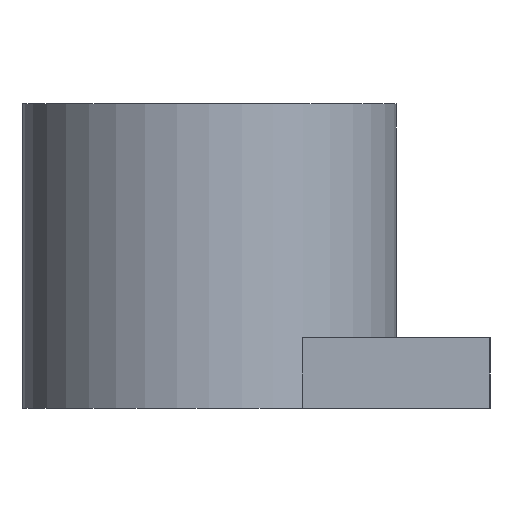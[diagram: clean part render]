
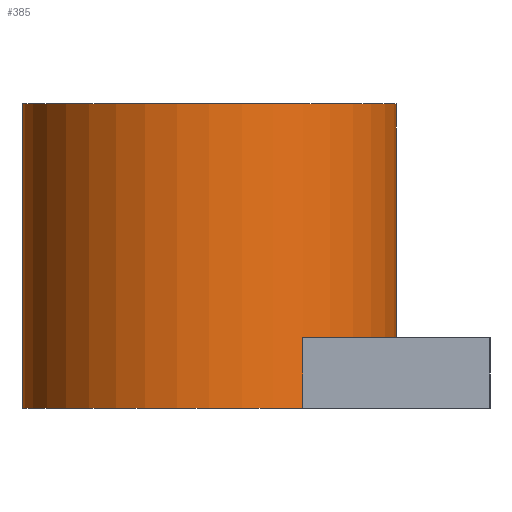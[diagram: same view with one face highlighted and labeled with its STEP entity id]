
A CAD part, left-side view. The second image highlights one B-rep face of the part: STEP entity #385.
In plain terms, the highlighted cylindrical face has radius 4 mm (diameter 8 mm), a full revolution.
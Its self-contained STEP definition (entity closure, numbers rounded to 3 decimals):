
#93 = VERTEX_POINT('',#94);
#94 = CARTESIAN_POINT('',(2.536,4.,1.5));
#179 = VERTEX_POINT('',#180);
#180 = CARTESIAN_POINT('',(9.464,4.,1.5));
#186 = EDGE_CURVE('',#93,#179,#187,.T.);
#187 = CIRCLE('',#188,4.);
#188 = AXIS2_PLACEMENT_3D('',#189,#190,#191);
#189 = CARTESIAN_POINT('',(6.,6.,1.5));
#190 = DIRECTION('',(0.,0.,1.));
#191 = DIRECTION('',(1.,0.,-0.));
#202 = VERTEX_POINT('',#203);
#203 = CARTESIAN_POINT('',(2.536,4.,0.));
#211 = EDGE_CURVE('',#202,#93,#212,.T.);
#212 = LINE('',#213,#214);
#213 = CARTESIAN_POINT('',(2.536,4.,0.));
#214 = VECTOR('',#215,1.);
#215 = DIRECTION('',(0.,0.,1.));
#226 = EDGE_CURVE('',#227,#202,#229,.T.);
#227 = VERTEX_POINT('',#228);
#228 = CARTESIAN_POINT('',(10.,6.,0.));
#229 = CIRCLE('',#230,4.);
#230 = AXIS2_PLACEMENT_3D('',#231,#232,#233);
#231 = CARTESIAN_POINT('',(6.,6.,0.));
#232 = DIRECTION('',(0.,0.,1.));
#233 = DIRECTION('',(1.,0.,-0.));
#235 = EDGE_CURVE('',#236,#227,#238,.T.);
#236 = VERTEX_POINT('',#237);
#237 = CARTESIAN_POINT('',(9.464,4.,0.));
#238 = CIRCLE('',#239,4.);
#239 = AXIS2_PLACEMENT_3D('',#240,#241,#242);
#240 = CARTESIAN_POINT('',(6.,6.,0.));
#241 = DIRECTION('',(0.,0.,1.));
#242 = DIRECTION('',(1.,0.,-0.));
#385 = ADVANCED_FACE('',(#386),#414,.T.);
#386 = FACE_BOUND('',#387,.T.);
#387 = EDGE_LOOP('',(#388,#396,#403,#404,#405,#406,#407,#413));
#388 = ORIENTED_EDGE('',*,*,#389,.T.);
#389 = EDGE_CURVE('',#227,#390,#392,.T.);
#390 = VERTEX_POINT('',#391);
#391 = CARTESIAN_POINT('',(10.,6.,6.5));
#392 = LINE('',#393,#394);
#393 = CARTESIAN_POINT('',(10.,6.,0.));
#394 = VECTOR('',#395,1.);
#395 = DIRECTION('',(0.,0.,1.));
#396 = ORIENTED_EDGE('',*,*,#397,.F.);
#397 = EDGE_CURVE('',#390,#390,#398,.T.);
#398 = CIRCLE('',#399,4.);
#399 = AXIS2_PLACEMENT_3D('',#400,#401,#402);
#400 = CARTESIAN_POINT('',(6.,6.,6.5));
#401 = DIRECTION('',(0.,0.,1.));
#402 = DIRECTION('',(1.,0.,-0.));
#403 = ORIENTED_EDGE('',*,*,#389,.F.);
#404 = ORIENTED_EDGE('',*,*,#226,.T.);
#405 = ORIENTED_EDGE('',*,*,#211,.T.);
#406 = ORIENTED_EDGE('',*,*,#186,.T.);
#407 = ORIENTED_EDGE('',*,*,#408,.F.);
#408 = EDGE_CURVE('',#236,#179,#409,.T.);
#409 = LINE('',#410,#411);
#410 = CARTESIAN_POINT('',(9.464,4.,0.));
#411 = VECTOR('',#412,1.);
#412 = DIRECTION('',(0.,0.,1.));
#413 = ORIENTED_EDGE('',*,*,#235,.T.);
#414 = CYLINDRICAL_SURFACE('',#415,4.);
#415 = AXIS2_PLACEMENT_3D('',#416,#417,#418);
#416 = CARTESIAN_POINT('',(6.,6.,0.));
#417 = DIRECTION('',(0.,0.,1.));
#418 = DIRECTION('',(1.,0.,-0.));
